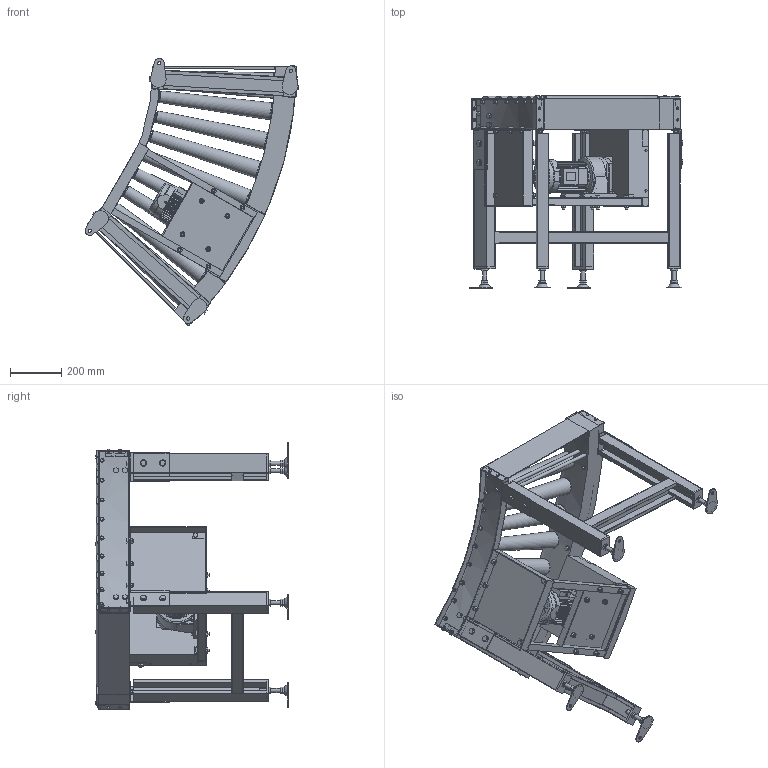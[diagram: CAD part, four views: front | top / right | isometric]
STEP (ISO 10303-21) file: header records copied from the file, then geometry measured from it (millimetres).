
FILE_DESCRIPTION( (''), '2;1');
FILE_NAME ('WEB-MCC3-45-500-100-45°-L.stp','2025-07-18T07:55:21',(''),(''),'spGate 20.6.2 (****-****-****-****)','','');
FILE_SCHEMA (('AUTOMOTIVE_DESIGN'));
Length unit declared in the file: millimetre
Products named in the file (22): WEB-MCC3-45-500-100-45_-L; TEMP_X_T-prt0; TEMP_X_T-prt1; TEMP_X_T-prt2; TEMP_X_T-prt3; TEMP_X_T-prt4; TEMP_X_T-prt5; TEMP_X_T-prt6; TEMP_X_T-prt7; TEMP_X_T-prt8; TEMP_X_T-prt9; TEMP_X_T-prt10; TEMP_X_T-prt11; TEMP_X_T-prt12; TEMP_X_T-prt13; TEMP_X_T-prt14; TEMP_X_T-prt15; TEMP_X_T-prt16; TEMP_X_T-prt17; TEMP_X_T-prt18; TEMP_X_T-prt19; TEMP_X_T-prt20
Assembly tree (21 placements, depth 2):
  WEB-MCC3-45-500-100-45_-L
    TEMP_X_T-prt0
    TEMP_X_T-prt1
    TEMP_X_T-prt2
    TEMP_X_T-prt3
    TEMP_X_T-prt4
    TEMP_X_T-prt5
    TEMP_X_T-prt6
    TEMP_X_T-prt7
    TEMP_X_T-prt8
    TEMP_X_T-prt9
    TEMP_X_T-prt10
    TEMP_X_T-prt11
    TEMP_X_T-prt12
    TEMP_X_T-prt13
    TEMP_X_T-prt14
    TEMP_X_T-prt15
    TEMP_X_T-prt16
    TEMP_X_T-prt17
    TEMP_X_T-prt18
    TEMP_X_T-prt19
    TEMP_X_T-prt20
Bounding box: 835.55 x 751 x 1043.4 mm (x, y, z)
Volume: 31489370.8 mm3; surface area: 4414682.1 mm2
Topology: 21 solids, 22 shells, 2612 faces, 6700 edges, 4436 vertices
Faces by surface type: plane 2023, cylinder 514, bspline 75
Full cylindrical faces by diameter (mm): 5 x4, 6 x20, 7 x8, 8 x6, 9.2 x4, 10 x46, 10.5 x4, 12 x11, 12.2 x12, 13 x12, 13.8 x12, 15 x1, 15.4 x19, 16 x16, 17.3 x9, 18 x14, 18.4 x24, 21 x4, 21.5 x1, 24 x8, 28 x10, 31 x1, 63 x1, 113.2 x1, 153 x1
Entity records: 140430 total; most frequent: CARTESIAN_POINT 21771, ORIENTED_EDGE 13398, DIRECTION 13091, COLOUR_RGB 9332, PRESENTATION_STYLE_ASSIGNMENT 9332, STYLED_ITEM 9332, EDGE_CURVE 6699, DRAUGHTING_PRE_DEFINED_CURVE_FONT 6699
